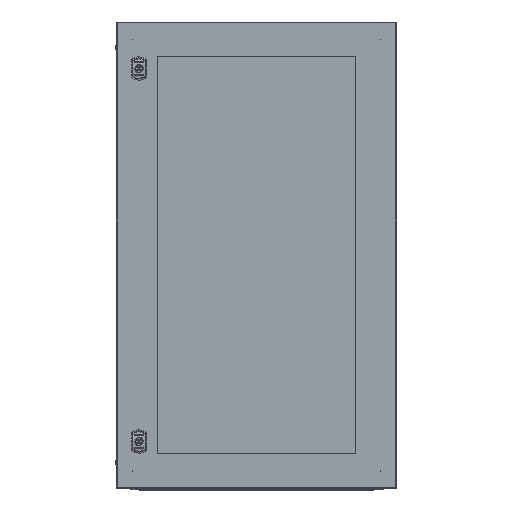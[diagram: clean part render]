
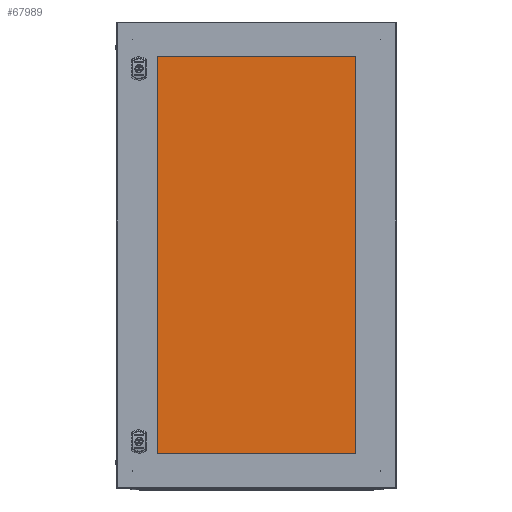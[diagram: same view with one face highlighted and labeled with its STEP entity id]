
A CAD part, top view. The second image highlights one B-rep face of the part: STEP entity #67989.
In plain terms, the highlighted planar face has unit normal (0, 0, 1) as drawn and (0, 0, -1) by its records, which use the part's own axes.
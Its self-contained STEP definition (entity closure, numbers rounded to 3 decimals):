
#67857 = EDGE_CURVE('',#67858,#67860,#67862,.T.);
#67858 = VERTEX_POINT('',#67859);
#67859 = CARTESIAN_POINT('',(222.5,-435.,0.));
#67860 = VERTEX_POINT('',#67861);
#67861 = CARTESIAN_POINT('',(222.5,435.,0.));
#67862 = LINE('',#67863,#67864);
#67863 = CARTESIAN_POINT('',(222.5,-435.,0.));
#67864 = VECTOR('',#67865,1.);
#67865 = DIRECTION('',(0.,1.,0.));
#67897 = EDGE_CURVE('',#67860,#67898,#67900,.T.);
#67898 = VERTEX_POINT('',#67899);
#67899 = CARTESIAN_POINT('',(-222.5,435.,0.));
#67900 = LINE('',#67901,#67902);
#67901 = CARTESIAN_POINT('',(-222.5,435.,0.));
#67902 = VECTOR('',#67903,1.);
#67903 = DIRECTION('',(-1.,-0.,-0.));
#67928 = EDGE_CURVE('',#67898,#67929,#67931,.T.);
#67929 = VERTEX_POINT('',#67930);
#67930 = CARTESIAN_POINT('',(-222.5,-435.,0.));
#67931 = LINE('',#67932,#67933);
#67932 = CARTESIAN_POINT('',(-222.5,-435.,0.));
#67933 = VECTOR('',#67934,1.);
#67934 = DIRECTION('',(-0.,-1.,-0.));
#67959 = EDGE_CURVE('',#67929,#67858,#67960,.T.);
#67960 = LINE('',#67961,#67962);
#67961 = CARTESIAN_POINT('',(-222.5,-435.,0.));
#67962 = VECTOR('',#67963,1.);
#67963 = DIRECTION('',(1.,0.,0.));
#67989 = ADVANCED_FACE('',(#67990),#67996,.T.);
#67990 = FACE_BOUND('',#67991,.T.);
#67991 = EDGE_LOOP('',(#67992,#67993,#67994,#67995));
#67992 = ORIENTED_EDGE('',*,*,#67857,.F.);
#67993 = ORIENTED_EDGE('',*,*,#67959,.F.);
#67994 = ORIENTED_EDGE('',*,*,#67928,.F.);
#67995 = ORIENTED_EDGE('',*,*,#67897,.F.);
#67996 = PLANE('',#67997);
#67997 = AXIS2_PLACEMENT_3D('',#67998,#67999,#68000);
#67998 = CARTESIAN_POINT('',(0.,0.,0.));
#67999 = DIRECTION('',(0.,0.,-1.));
#68000 = DIRECTION('',(-1.,0.,-0.));
